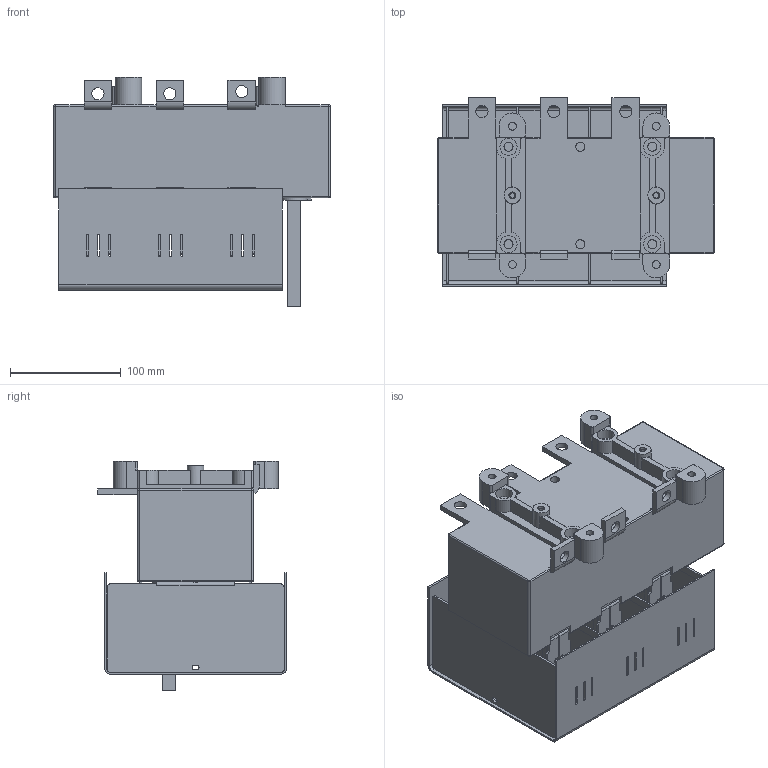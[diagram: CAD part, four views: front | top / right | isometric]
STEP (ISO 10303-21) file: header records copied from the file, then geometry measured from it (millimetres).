
FILE_DESCRIPTION(/* description */ (''),/* implementation_level */ '2;1');
FILE_NAME(/* name */ 'RAB 2 P3 A.stp',/* time_stamp */ '2021-08-19T13:41:44+02:00',/* author */ (''),/* organization */ (''),/* preprocessor_version */ 'ST-DEVELOPER v18.1',/* originating_system */ 'SIEMENS PLM Software NX 1965',/* authorisation */ '');
FILE_SCHEMA (('AUTOMOTIVE_DESIGN { 1 0 10303 214 3 1 1 1 }'));
Length unit declared in the file: millimetre
Products named in the file (1): RAB 2 P3 A_stp
Bounding box: 250 x 170.5 x 207.3 mm (x, y, z)
Volume: 2444445.2 mm3; surface area: 436727.7 mm2
Topology: 1 solids, 7 shells, 1115 faces, 3041 edges, 1972 vertices
Faces by surface type: plane 727, cylinder 380, torus 5, bspline 3
Full cylindrical faces by diameter (mm): 4.8 x2, 5.2 x18, 6.2 x2, 7 x4, 8.2 x6, 11 x6, 14 x4, 15 x2, 15.5 x4
Entity records: 35156 total; most frequent: CARTESIAN_POINT 6214, DIRECTION 5983, ORIENTED_EDGE 5978, EDGE_CURVE 2989, LINE 2197, VECTOR 2197, VERTEX_POINT 1968, AXIS2_PLACEMENT_3D 1893
